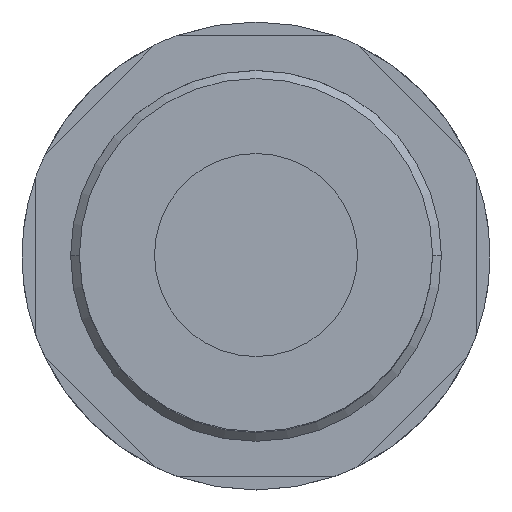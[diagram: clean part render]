
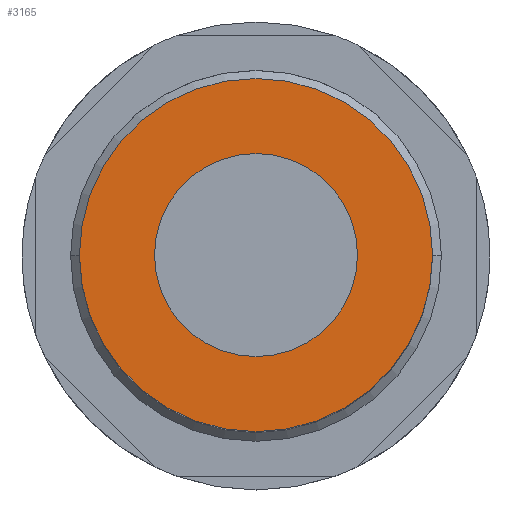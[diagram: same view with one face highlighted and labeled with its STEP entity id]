
A CAD part, top view. The second image highlights one B-rep face of the part: STEP entity #3165.
In plain terms, the highlighted planar face has unit normal (0, 0, 1) as drawn and (0, 0, -1) by its records, which use the part's own axes.
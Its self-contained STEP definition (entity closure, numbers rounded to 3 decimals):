
#324=CARTESIAN_POINT('',(20.,0.0,-66.2));
#325=VERTEX_POINT('',#324);
#334=CARTESIAN_POINT('',(-20.,0.,-66.2));
#335=VERTEX_POINT('',#334);
#336=CARTESIAN_POINT('',(0.0,0.0,-66.2));
#337=DIRECTION('',(0.0,0.0,1.0));
#338=DIRECTION('',(1.0,0.0,0.0));
#339=AXIS2_PLACEMENT_3D('',#336,#337,#338);
#340=CIRCLE('',#339,20.);
#341=EDGE_CURVE('',#325,#335,#340,.T.);
#368=CARTESIAN_POINT('',(11.5,0.0,-66.2));
#369=VERTEX_POINT('',#368);
#385=CARTESIAN_POINT('',(-11.5,0.,-66.2));
#386=VERTEX_POINT('',#385);
#393=CARTESIAN_POINT('',(0.0,0.0,-66.2));
#394=DIRECTION('',(0.0,0.0,1.0));
#395=DIRECTION('',(1.0,0.0,0.0));
#396=AXIS2_PLACEMENT_3D('',#393,#394,#395);
#397=CIRCLE('',#396,11.5);
#398=EDGE_CURVE('',#369,#386,#397,.T.);
#3134=CARTESIAN_POINT('',(0.0,0.0,-66.2));
#3135=DIRECTION('',(0.0,0.0,1.0));
#3136=DIRECTION('',(1.0,0.0,0.0));
#3137=AXIS2_PLACEMENT_3D('',#3134,#3135,#3136);
#3138=CIRCLE('',#3137,11.5);
#3139=EDGE_CURVE('',#386,#369,#3138,.T.);
#3146=CARTESIAN_POINT('',(15.75,0.0,-66.2));
#3147=DIRECTION('',(0.0,0.0,-1.0));
#3148=DIRECTION('',(-1.0,0.0,0.0));
#3149=AXIS2_PLACEMENT_3D('',#3146,#3147,#3148);
#3150=PLANE('',#3149);
#3151=ORIENTED_EDGE('',*,*,#341,.F.);
#3152=CARTESIAN_POINT('',(0.0,0.0,-66.2));
#3153=DIRECTION('',(0.0,0.0,1.0));
#3154=DIRECTION('',(1.0,0.0,0.0));
#3155=AXIS2_PLACEMENT_3D('',#3152,#3153,#3154);
#3156=CIRCLE('',#3155,20.);
#3157=EDGE_CURVE('',#335,#325,#3156,.T.);
#3158=ORIENTED_EDGE('',*,*,#3157,.F.);
#3159=EDGE_LOOP('',(#3151,#3158));
#3160=FACE_OUTER_BOUND('',#3159,.T.);
#3161=ORIENTED_EDGE('',*,*,#398,.T.);
#3162=ORIENTED_EDGE('',*,*,#3139,.T.);
#3163=EDGE_LOOP('',(#3161,#3162));
#3164=FACE_BOUND('',#3163,.T.);
#3165=ADVANCED_FACE('',(#3160,#3164),#3150,.T.);
